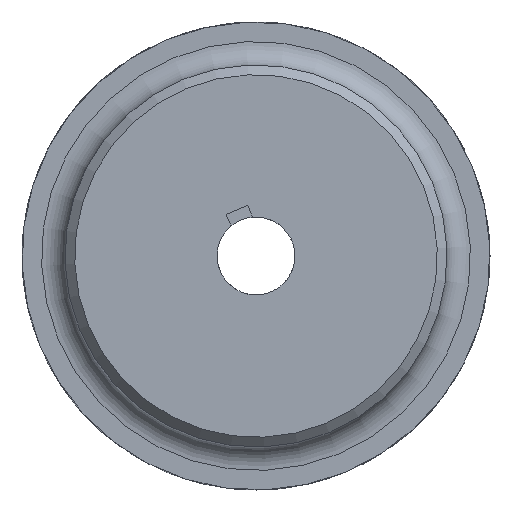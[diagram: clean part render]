
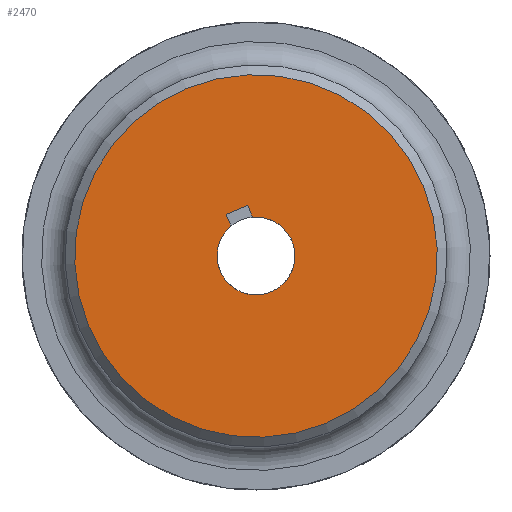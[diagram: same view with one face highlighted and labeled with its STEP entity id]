
A CAD part, left-side view. The second image highlights one B-rep face of the part: STEP entity #2470.
In plain terms, the highlighted planar face has unit normal (-1, 0, 0) as drawn and (0, 0, -1) by its records, which use the part's own axes.
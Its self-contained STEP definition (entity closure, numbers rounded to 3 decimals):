
#149=LINE('',#5335,#250);
#152=LINE('',#5341,#253);
#155=LINE('',#5347,#256);
#250=VECTOR('',#3280,10.);
#253=VECTOR('',#3285,10.);
#256=VECTOR('',#3290,10.);
#364=FACE_BOUND('',#664,.T.);
#505=FACE_OUTER_BOUND('',#663,.T.);
#663=EDGE_LOOP('',(#2281));
#664=EDGE_LOOP('',(#2282,#2283,#2284,#2285));
#870=CIRCLE('',#2744,10.);
#932=CIRCLE('',#2846,46.5);
#1099=VERTEX_POINT('',#5332);
#1100=VERTEX_POINT('',#5334);
#1102=VERTEX_POINT('',#5340);
#1104=VERTEX_POINT('',#5346);
#1178=VERTEX_POINT('',#5700);
#1427=EDGE_CURVE('',#1100,#1099,#149,.T.);
#1430=EDGE_CURVE('',#1102,#1100,#152,.T.);
#1433=EDGE_CURVE('',#1104,#1102,#155,.T.);
#1436=EDGE_CURVE('',#1099,#1104,#870,.T.);
#1547=EDGE_CURVE('',#1178,#1178,#932,.T.);
#2281=ORIENTED_EDGE('',*,*,#1547,.T.);
#2282=ORIENTED_EDGE('',*,*,#1433,.T.);
#2283=ORIENTED_EDGE('',*,*,#1430,.T.);
#2284=ORIENTED_EDGE('',*,*,#1427,.T.);
#2285=ORIENTED_EDGE('',*,*,#1436,.T.);
#2329=PLANE('',#2847);
#2470=ADVANCED_FACE('',(#505,#364),#2329,.T.);
#2744=AXIS2_PLACEMENT_3D('',#5351,#3296,#3297);
#2846=AXIS2_PLACEMENT_3D('',#5702,#3536,#3537);
#2847=AXIS2_PLACEMENT_3D('',#5703,#3538,#3539);
#3280=DIRECTION('',(1.,0.,0.));
#3285=DIRECTION('',(0.,-1.,0.));
#3290=DIRECTION('',(-1.,0.,0.));
#3296=DIRECTION('center_axis',(0.,0.,
1.));
#3297=DIRECTION('ref_axis',(1.,0.,0.));
#3536=DIRECTION('center_axis',(0.,0.,
-1.));
#3537=DIRECTION('ref_axis',(0.,1.,0.));
#3538=DIRECTION('center_axis',(0.,0.,
-1.));
#3539=DIRECTION('ref_axis',(0.,-1.,0.));
#5332=CARTESIAN_POINT('',(-9.539,-3.,-65.));
#5334=CARTESIAN_POINT('',(-12.8,-3.,-65.));
#5335=CARTESIAN_POINT('',(-6.4,-3.,-65.));
#5340=CARTESIAN_POINT('',(-12.8,3.,-65.));
#5341=CARTESIAN_POINT('',(-12.8,1.5,-65.));
#5346=CARTESIAN_POINT('',(-9.539,3.,-65.));
#5347=CARTESIAN_POINT('',(-4.77,3.,-65.));
#5351=CARTESIAN_POINT('Origin',(0.,0.,
-65.));
#5700=CARTESIAN_POINT('',(0.,-46.5,-65.));
#5702=CARTESIAN_POINT('Origin',(0.,0.,
-65.));
#5703=CARTESIAN_POINT('Origin',(0.,0.,
-65.));
